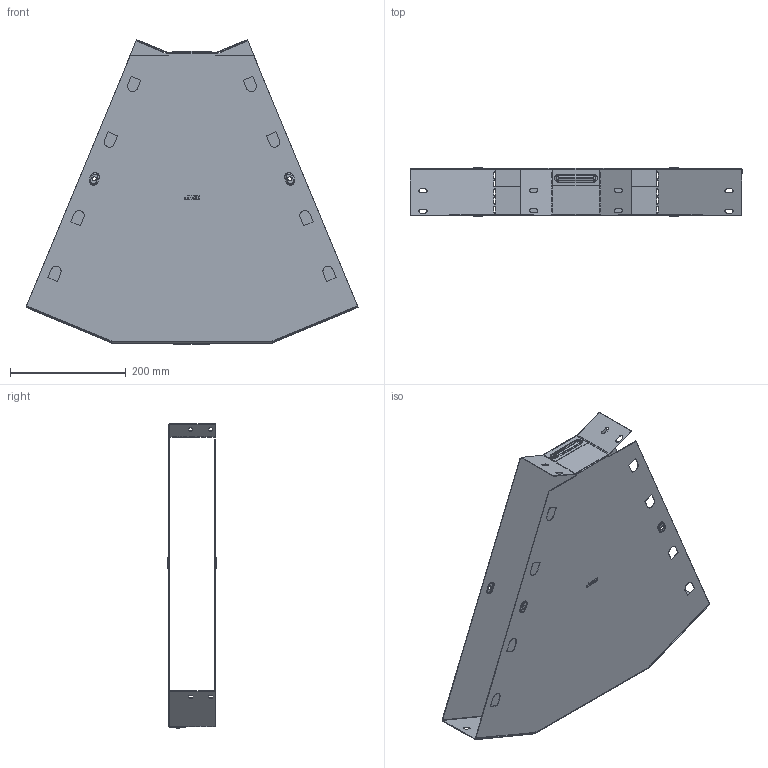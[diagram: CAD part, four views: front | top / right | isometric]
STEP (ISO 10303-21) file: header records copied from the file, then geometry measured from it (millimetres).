
FILE_DESCRIPTION (( 'STEP AP214' ), '1' );
FILE_NAME ('g4580500_捘.STEP', '2019-06-10T08:49:04', ( '砐錪賧瘔蠈錪 Windows' ), ( '' ), 'SwSTEP 2.0', 'SolidWorks 2018', '' );
FILE_SCHEMA (( 'AUTOMOTIVE_DESIGN' ));
Length unit declared in the file: millimetre
Products named in the file (1): g4580500_捘
Bounding box: 573.02 x 83.8 x 525.57 mm (x, y, z)
Volume: 370800.5 mm3; surface area: 932113.4 mm2
Topology: 2 solids, 2 shells, 596 faces, 1656 edges, 1052 vertices
Faces by surface type: plane 338, cylinder 176, torus 64, bspline 18
Entity records: 19996 total; most frequent: CARTESIAN_POINT 4324, ORIENTED_EDGE 3312, DIRECTION 3226, EDGE_CURVE 1656, VECTOR 1172, LINE 1172, VERTEX_POINT 1052, AXIS2_PLACEMENT_3D 1027
